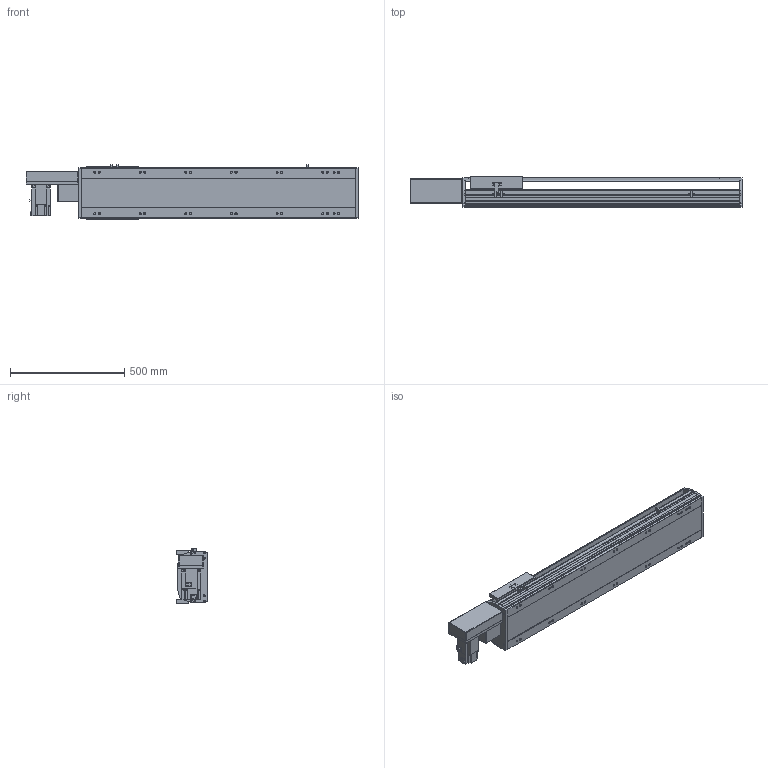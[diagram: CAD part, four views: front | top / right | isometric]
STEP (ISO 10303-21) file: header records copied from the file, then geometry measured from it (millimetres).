
FILE_DESCRIPTION(/* description */ ('STEP AP214'),/* implementation_level */ '2;1');
FILE_NAME(/* name */ 'PBS220-P40-S850-R-T75-C1-N(0)',/* time_stamp */ '2022-06-11T10:00:28+02:00',/* author */ ('License CC BY-ND 4.0'),/* organization */ ('CADENAS'),/* preprocessor_version */ 'ST-DEVELOPER v18.102',/* originating_system */ 'PARTsolutions',/* authorisation */ ' ');
FILE_SCHEMA (('AUTOMOTIVE_DESIGN {1 0 10303 214 3 1 1}'));
Length unit declared in the file: millimetre
Products named in the file (7): PBS220-P40-S850-R-T75-C1-N(0); PBS220_sensor; PBS220_plant; PBS220_sliser; T75-p1; PBS220T-R_motors; PBS220-S850()_body
Assembly tree (8 placements, depth 2):
  PBS220-P40-S850-R-T75-C1-N(0)
    PBS220_sensor  x3
    PBS220_plant
    PBS220_sliser
    T75-p1
    PBS220T-R_motors
    PBS220-S850()_body
Bounding box: 1456 x 134 x 238.5 mm (x, y, z)
Volume: 19432282.2 mm3; surface area: 1929968 mm2
Topology: 8 solids, 8 shells, 902 faces, 2368 edges, 1540 vertices
Faces by surface type: plane 594, cylinder 270, cone 38
Full cylindrical faces by diameter (mm): 2.013 x4, 4.5 x14, 4.917 x4, 6 x7, 6.647 x8, 8 x10, 8.376 x14, 8.5 x14, 10 x6, 14 x14, 38 x2, 40 x1, 70 x1
Entity records: 25317 total; most frequent: CARTESIAN_POINT 4426, DIRECTION 4401, ORIENTED_EDGE 4070, EDGE_CURVE 2035, AXIS2_PLACEMENT_3D 1529, VERTEX_POINT 1400, LINE 1343, VECTOR 1343
